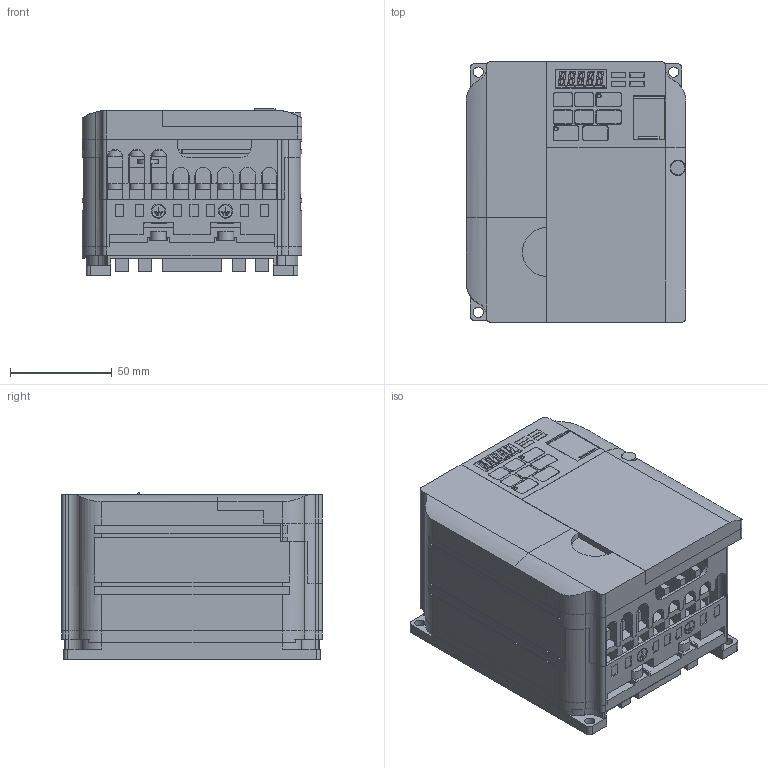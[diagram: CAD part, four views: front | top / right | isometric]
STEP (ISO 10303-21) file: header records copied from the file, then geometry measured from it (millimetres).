
FILE_DESCRIPTION((''),'2;1');
FILE_NAME('V1000_IP20_FRAME_E_ASM','2010-07-20T',('jc'),('YASKAWA ELECTRIC CORCORATION'),'PRO/ENGINEER BY PARAMETRIC TECHNOLOGY CORPORATION, 2008490','PRO/ENGINEER BY PARAMETRIC TECHNOLOGY CORPORATION, 2008490','');
FILE_SCHEMA(('CONFIG_CONTROL_DESIGN'));
Length unit declared in the file: millimetre
Products named in the file (23): NONE-73852; BASE_MAIN_TERMINAL_B_2________A_ASM; NONE-73463; SHITA_COVER_B1________ANY_ASM; NONE-78025; ASM0059_ASM; NONE-80060; ASM0060_ASM; NONE-78294; BASE_HEATSINK_B2________ANY_ASM; NONE-69576; ASM0061_ASM; NONE-51173; ASM0062_ASM; NONE-76771; BASE_MAIN_TERMINAL_B_1________A_ASM; NONE-52064; BASE_CASE_B1________ANY_ASM; NONE-77755; TANSHI_COVER_B________ANY_ASM; CIMR_VZ4A0001BAA_ANY_ASM; _4A0001B; V1000_IP20_FRAME_E_ASM
Assembly tree (22 placements, depth 4):
  V1000_IP20_FRAME_E_ASM
    CIMR_VZ4A0001BAA_ANY_ASM
      BASE_MAIN_TERMINAL_B_2________A_ASM
        NONE-73852
      SHITA_COVER_B1________ANY_ASM
        NONE-73463
      ASM0059_ASM
        NONE-78025
      ASM0060_ASM
        NONE-80060
      BASE_HEATSINK_B2________ANY_ASM
        NONE-78294
      ASM0061_ASM
        NONE-69576
      ASM0062_ASM
        NONE-51173
      BASE_MAIN_TERMINAL_B_1________A_ASM
        NONE-76771
      BASE_CASE_B1________ANY_ASM
        NONE-52064
      TANSHI_COVER_B________ANY_ASM
        NONE-77755
    _4A0001B
Bounding box: 108 x 128 x 82 mm (x, y, z)
Volume: 781668.3 mm3; surface area: 188668.4 mm2
Topology: 10 solids, 10 shells, 1831 faces, 4959 edges, 3284 vertices
Faces by surface type: plane 1470, cylinder 361
Entity records: 57758 total; most frequent: CARTESIAN_POINT 10227, ORIENTED_EDGE 9918, DIRECTION 9544, EDGE_CURVE 4959, VECTOR 4146, LINE 4146, VERTEX_POINT 3284, AXIS2_PLACEMENT_3D 2699
